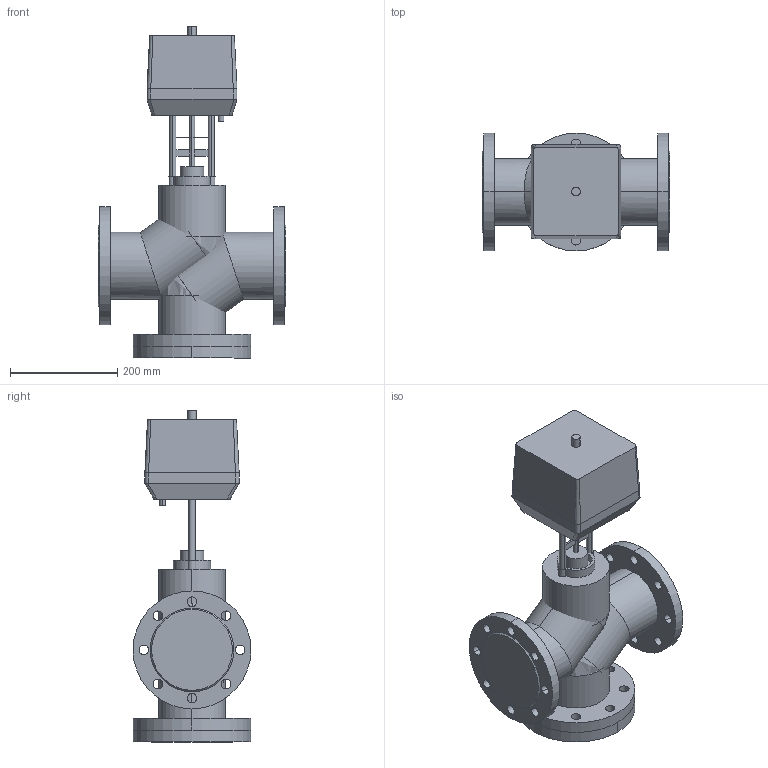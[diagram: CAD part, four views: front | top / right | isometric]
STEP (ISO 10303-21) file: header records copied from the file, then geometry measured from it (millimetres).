
FILE_DESCRIPTION(/* description */ (''),/* implementation_level */ '2;1');
FILE_NAME(/* name */ 'ТРК DN100 PN 1.6 МПа VTM-i 5000H',/* time_stamp */ '2026-07-14T23:20:55+03:00',/* author */ (''),/* organization */ (''),/* preprocessor_version */ 'ST-DEVELOPER v20',/* originating_system */ '',/* authorisation */ '');
FILE_SCHEMA (('AP242_MANAGED_MODEL_BASED_3D_ENGINEERING_MIM_LF { 1 0 10303 442 1 1 4 }'));
Length unit declared in the file: millimetre
Products named in the file (14): TopLevelAssembly; Выдавливание; Модификатор; Модификатор_1; Выдавливание_
1; Выдавливание_
2; Вращение; Выдавливание_
3; Выдавливание_
4; 1600; Переход; Объемная геометрия 
присоединена; Полый Выдавливание; Объемная геометрия 
присоединена_1
Assembly tree (13 placements, depth 2):
  TopLevelAssembly
    Выдавливание
    Модификатор
    Модификатор_1
    Выдавливание_
1
    Выдавливание_
2
    Вращение
    Выдавливание_
3
    Выдавливание_
4
    1600
    Переход
    Объемная геометрия 
присоединена
    Полый Выдавливание
    Объемная геометрия 
присоединена_1
Bounding box: 350 x 220 x 620 mm (x, y, z)
Volume: 15165189.3 mm3; surface area: 1101089.8 mm2
Topology: 21 solids, 21 shells, 188 faces, 432 edges, 284 vertices
Faces by surface type: cylinder 98, plane 74, bspline 12, cone 4
Entity records: 6181 total; most frequent: CARTESIAN_POINT 1203, DIRECTION 1062, ORIENTED_EDGE 848, AXIS2_PLACEMENT_3D 435, EDGE_CURVE 424, VERTEX_POINT 284, EDGE_LOOP 248, CIRCLE 224
